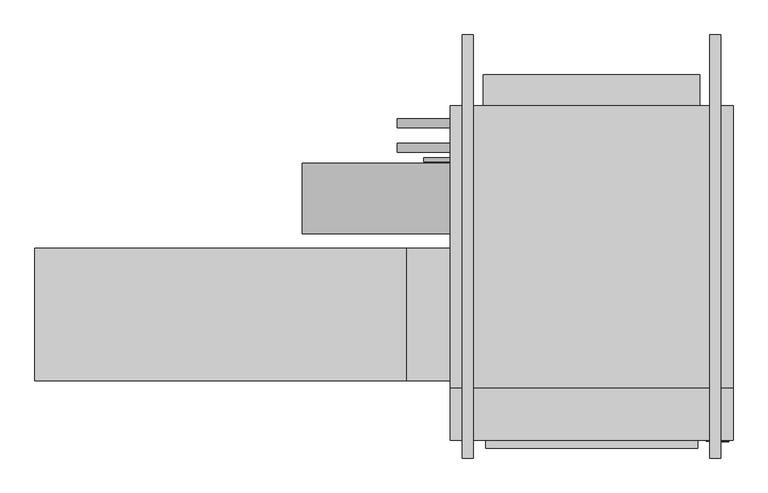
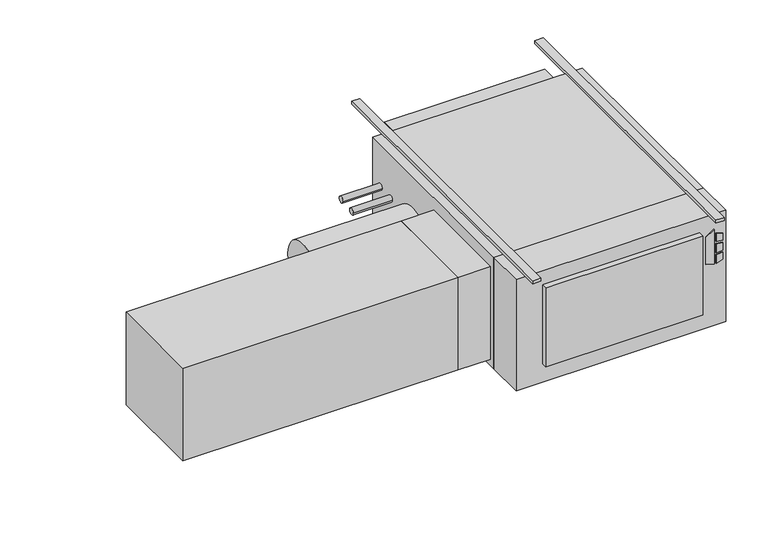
"""IFC4 building model written with IfcOpenShell, lengths in millimetres: proxy geometry."""

import ifcopenshell
import ifcopenshell.guid

model = None  # the IFC model being written
_history = None  # IfcOwnerHistory: only IFC2X3 demands one
_inside = {}  # id of a spatial element -> (the spatial element, [elements in it])
_under = {}  # id of a project, library or spatial element -> (it, [spatial elements below it])
_declared = {}  # id of a project -> (the project, [libraries it declares])
_typed = {}  # id of a type object -> (the type object, [elements of that type])
_made_of = {}  # id of a material, layer set ... -> (it, [elements and type objects made of it])


def new_model(schema):
    """Start an empty IFC model of exactly this schema.

    Asked for "IFC4X3", IfcOpenShell would pick the latest addendum, in which some entities
    have other attributes; the version numbers below select the first issue.
    IFC2X3 requires an IfcOwnerHistory on every rooted entity: one is made here for all.
    """
    global model, _history
    if schema == "IFC4X3":
        model = ifcopenshell.file(schema_version=(4, 3, 0, 0))
    else:
        model = ifcopenshell.file(schema=schema)
    _inside.clear()
    _under.clear()
    _declared.clear()
    _typed.clear()
    _made_of.clear()
    _history = None
    if model.schema == "IFC2X3":
        org = make("IfcOrganization", Name="unknown")
        user = make(
            "IfcPersonAndOrganization",
            ThePerson=make("IfcPerson", FamilyName="unknown"),
            TheOrganization=org,
        )
        app = make(
            "IfcApplication",
            ApplicationDeveloper=org,
            Version="unknown",
            ApplicationFullName="unknown",
            ApplicationIdentifier="unknown",
        )
        _history = make(
            "IfcOwnerHistory",
            OwningUser=user,
            OwningApplication=app,
            ChangeAction="ADDED",
            CreationDate=0,
        )
    return model


def make(cls, **values):
    """One entity of the class cls with the attributes given. An attribute that is None is left unset."""
    return model.create_entity(
        cls, **{name: value for name, value in values.items() if value is not None}
    )


def rooted(cls, **values):
    """An entity with a GlobalId (a new one), such as an element, a storey or a relation."""
    return make(cls, GlobalId=ifcopenshell.guid.new(), OwnerHistory=_history, **values)


def si_unit(unit_type, name, prefix=None):
    """IfcSIUnit, for example si_unit("LENGTHUNIT", "METRE", prefix="MILLI")."""
    return make("IfcSIUnit", UnitType=unit_type, Prefix=prefix, Name=name)


def assignment(units):
    """IfcUnitAssignment: the units of a project."""
    return None if units is None else make("IfcUnitAssignment", Units=units)


def point(xyz):
    """IfcCartesianPoint."""
    return None if xyz is None else make("IfcCartesianPoint", Coordinates=xyz)


def direction(xyz):
    """IfcDirection."""
    return None if xyz is None else make("IfcDirection", DirectionRatios=xyz)


def frame(location, z_axis=None, x_axis=None):
    """IfcAxis2Placement3D, a coordinate frame: its origin and axes. An axis left out is left unset."""
    return make(
        "IfcAxis2Placement3D",
        Location=point(location),
        Axis=direction(z_axis),
        RefDirection=direction(x_axis),
    )


def frame_2d(location, x_axis=None):
    """IfcAxis2Placement2D, a coordinate frame in the plane: its origin and x axis."""
    return make(
        "IfcAxis2Placement2D", Location=point(location), RefDirection=direction(x_axis)
    )


def origin():
    """The frame at (0, 0, 0) with its axes left unset."""
    return frame((0.0, 0.0, 0.0))


def origin_with_axes():
    """The frame at (0, 0, 0) with the z axis (0, 0, 1) and the x axis (1, 0, 0) written out."""
    return frame((0.0, 0.0, 0.0), z_axis=(0.0, 0.0, 1.0), x_axis=(1.0, 0.0, 0.0))


def place(relative_to, where):
    """IfcLocalPlacement: puts the frame where relative to a parent placement (None: the world)."""
    return make(
        "IfcLocalPlacement", PlacementRelTo=relative_to, RelativePlacement=where
    )


def context(
    kind, dimensions, precision=None, world=None, true_north=None, identifier=None
):
    """IfcGeometricRepresentationContext, for example the 3D "Model" context."""
    return make(
        "IfcGeometricRepresentationContext",
        ContextIdentifier=identifier,
        ContextType=kind,
        CoordinateSpaceDimension=dimensions,
        Precision=precision,
        WorldCoordinateSystem=world,
        TrueNorth=true_north,
    )


def project(units=None, contexts=None):
    """IfcProject with its units and contexts."""
    return rooted(
        "IfcProject",
        Name="project",
        RepresentationContexts=contexts,
        UnitsInContext=assignment(units),
    )


def spatial(cls, under=None, at=None, **own):
    """A site, building, storey or space (cls), placed at a placement, below another one or the project."""
    s = rooted(cls, ObjectPlacement=at, **own)
    if under is not None:
        _under.setdefault(under.id(), (under, []))[1].append(s)
    return s


def polyline(points):
    """IfcPolyline through the points."""
    return make("IfcPolyline", Points=[point(p) for p in points])


def circle_curve(where, radius):
    """IfcCircle in the frame where."""
    return make("IfcCircle", Position=where, Radius=radius)


def trimmed(basis, trim1, trim2, sense, master):
    """IfcTrimmedCurve: the piece of a basis curve between two trims."""
    return make(
        "IfcTrimmedCurve",
        BasisCurve=basis,
        Trim1=trim1,
        Trim2=trim2,
        SenseAgreement=sense,
        MasterRepresentation=master,
    )


def segment(curve, same_sense, transition):
    """IfcCompositeCurveSegment."""
    return make(
        "IfcCompositeCurveSegment",
        Transition=transition,
        SameSense=same_sense,
        ParentCurve=curve,
    )


def composite_curve(segments, self_intersect=None):
    """IfcCompositeCurve: segments joined end to end."""
    return make("IfcCompositeCurve", Segments=segments, SelfIntersect=self_intersect)


def outline(outer, holes=None, kind="AREA"):
    """IfcArbitraryClosedProfileDef: a profile drawn as a closed curve; with holes, ...WithVoids."""
    if holes is None:
        return make("IfcArbitraryClosedProfileDef", ProfileType=kind, OuterCurve=outer)
    return make(
        "IfcArbitraryProfileDefWithVoids",
        ProfileType=kind,
        OuterCurve=outer,
        InnerCurves=holes,
    )


def extrude(swept, where, along, depth):
    """IfcExtrudedAreaSolid: the profile swept, set in the frame where, extruded along a direction by depth."""
    return make(
        "IfcExtrudedAreaSolid",
        SweptArea=swept,
        Position=where,
        ExtrudedDirection=direction(along),
        Depth=depth,
    )


def shape(context_of_items, identifier, shape_type, items):
    """IfcShapeRepresentation: the items that make up one representation, for example the "Body"."""
    return make(
        "IfcShapeRepresentation",
        ContextOfItems=context_of_items,
        RepresentationIdentifier=identifier,
        RepresentationType=shape_type,
        Items=items,
    )


def source(mapping_origin, context_of_items, identifier, shape_type, items):
    """IfcRepresentationMap: a shape defined once, which mapped items show again and again."""
    return make(
        "IfcRepresentationMap",
        MappingOrigin=mapping_origin,
        MappedRepresentation=shape(context_of_items, identifier, shape_type, items),
    )


def transform(
    local_origin,
    x_axis=None,
    y_axis=None,
    z_axis=None,
    scale=None,
    scale2=None,
    scale3=None,
    uniform=True,
):
    """IfcCartesianTransformationOperator3D, or its non-uniform kind. x_axis, y_axis, z_axis: its Axis1, 2, 3."""
    if uniform:
        return make(
            "IfcCartesianTransformationOperator3D",
            Axis1=direction(x_axis),
            Axis2=direction(y_axis),
            LocalOrigin=point(local_origin),
            Scale=scale,
            Axis3=direction(z_axis),
        )
    return make(
        "IfcCartesianTransformationOperator3DnonUniform",
        Axis1=direction(x_axis),
        Axis2=direction(y_axis),
        LocalOrigin=point(local_origin),
        Scale=scale,
        Axis3=direction(z_axis),
        Scale2=scale2,
        Scale3=scale3,
    )


def mapped(mapping_source, mapping_target):
    """IfcMappedItem: shows the shape of a source again, moved by a transform."""
    return make(
        "IfcMappedItem", MappingSource=mapping_source, MappingTarget=mapping_target
    )


def made_of(thing, what):
    """Note that an element or type object is made of a material, layer set ...; save() writes the relation."""
    if what is not None:
        _made_of.setdefault(what.id(), (what, []))[1].append(thing)
    return thing


def element(
    cls,
    number,
    at=None,
    inside=None,
    cuts=None,
    type_object=None,
    material=None,
    context=None,
    identifier="Body",
    shape_type=None,
    held_by="IfcProductDefinitionShape",
    body=None,
    shapes=None,
    **own,
):
    """One element of the class cls, such as IfcWall. Its Tag is "e" and its number.

    at: its placement. inside: the storey or other place that contains it. cuts: it is an
    opening in that element (IfcRelVoidsElement). A single representation is given by context,
    identifier, shape_type and body (its items); several are given by shapes. held_by: the class
    of the entity that holds the representations. save() writes the other relations.
    """
    e = rooted(cls, Tag="e%d" % number, ObjectPlacement=at, **own)
    if body is not None:
        shapes = [shape(context, identifier, shape_type, body)]
    if shapes is not None:
        e.Representation = make(held_by, Representations=shapes)
    if inside is not None:
        _inside.setdefault(inside.id(), (inside, []))[1].append(e)
    if cuts is not None:
        rooted(
            "IfcRelVoidsElement", RelatingBuildingElement=cuts, RelatedOpeningElement=e
        )
    if type_object is not None:
        _typed.setdefault(type_object.id(), (type_object, []))[1].append(e)
    return made_of(e, material)


def aggregate(whole, parts):
    """IfcRelAggregates: a whole, such as a stair, and the parts it consists of."""
    return rooted("IfcRelAggregates", RelatingObject=whole, RelatedObjects=parts)


def save(model, path):
    """Write the relations noted so far, then the file.

    IfcRelAggregates (storeys below a building ...), IfcRelContainedInSpatialStructure (elements
    in a storey), IfcRelDefinesByType, IfcRelAssociatesMaterial and IfcRelDeclares: one each for
    every whole, place, type object, material and project.
    """
    for whole, parts in _under.values():
        aggregate(whole, parts)
    for where, things in _inside.values():
        rooted(
            "IfcRelContainedInSpatialStructure",
            RelatedElements=things,
            RelatingStructure=where,
        )
    for kind, things in _typed.values():
        rooted("IfcRelDefinesByType", RelatedObjects=things, RelatingType=kind)
    for what, things in _made_of.values():
        rooted("IfcRelAssociatesMaterial", RelatedObjects=things, RelatingMaterial=what)
    for by, libraries in _declared.values():
        rooted("IfcRelDeclares", RelatingContext=by, RelatedDefinitions=libraries)
    model.write(path)


def mechanical_equipment_76ebdcd2(model_context):
    return source(origin(), model_context, "Body", "SweptSolid", [
        extrude(outline(polyline([(-193.2519297, 481.0868862), (-203.2, 513.2602728), (-61.0290756, 513.2602728), (-84.0510817, 481.0868862), (-193.2519297, 481.0868862)])), frame((0.0, -797.052, 0.0), z_axis=(0.0, 1.0, 0.0), x_axis=(0.0, 0.0, 1.0)), (0.0, 0.0, 1.0), 3.175),
        extrude(outline(polyline([(-114.2526443, 520.0186058), (-117.4550368, 546.1), (-88.2261958, 546.1), (-80.1617807, 520.0186058), (-114.2526443, 520.0186058)])), frame((0.0, -797.052, 0.0), z_axis=(0.0, 1.0, 0.0), x_axis=(0.0, 0.0, 1.0)), (0.0, 0.0, 1.0), 3.175),
        extrude(outline(polyline([(-166.1161712, 546.1), (-169.7816721, 520.0186058), (-203.2, 520.0186058), (-194.5657628, 546.1), (-166.1161712, 546.1)])), frame((0.0, -797.052, 0.0), z_axis=(0.0, 1.0, 0.0), x_axis=(0.0, 0.0, 1.0)), (0.0, 0.0, 1.0), 3.175),
        extrude(outline(polyline([(-126.8010097, 546.1), (-124.5191834, 520.0186058), (-160.4567319, 520.0186058), (-157.7154669, 546.1), (-126.8010097, 546.1)])), frame((0.0, -797.052, 0.0), z_axis=(0.0, 1.0, 0.0), x_axis=(0.0, 0.0, 1.0)), (0.0, 0.0, 1.0), 3.175),
        extrude(outline(polyline([(558.8, -793.877), (-254.0, -793.877), (-254.0, -644.525), (558.8, -644.525), (558.8, -793.877)])), frame((0.0, 0.0, -457.2), z_axis=(0.0, 0.0, 1.0), x_axis=(1.0, 0.0, 0.0)), (0.0, 0.0, 1.0), 457.2),
        extrude(outline(polyline([(457.2, -816.229), (-152.4, -816.229), (-152.4, -793.877), (457.2, -793.877), (457.2, -816.229)])), frame((0.0, 0.0, -381.0), z_axis=(0.0, 0.0, 1.0), x_axis=(1.0, 0.0, 0.0)), (0.0, 0.0, 1.0), 323.85),
        extrude(outline(polyline([(-1447.8, -622.3), (-1447.8, -241.3), (-381.0, -241.3), (-381.0, -622.3), (-1447.8, -622.3)])), frame((0.0, 0.0, -431.8), z_axis=(0.0, 0.0, 1.0), x_axis=(1.0, 0.0, 0.0)), (0.0, 0.0, 1.0), 381.0),
        extrude(outline(polyline([(-254.0, -241.3), (-254.0, -622.3), (-381.0, -622.3), (-381.0, -241.3), (-254.0, -241.3)])), frame((0.0, 0.0, -431.8), z_axis=(0.0, 0.0, 1.0), x_axis=(1.0, 0.0, 0.0)), (0.0, 0.0, 1.0), 381.0),
        extrude(outline(composite_curve([segment(trimmed(circle_curve(frame_2d((-98.4896516, -228.6360165)), 101.6), [point((-200.0896516, -228.6360165))], [point((3.1103484, -228.6360165))], False, "CARTESIAN"), True, "CONTINUOUS"), segment(trimmed(circle_curve(frame_2d((-98.4896516, -228.6360165)), 101.6), [point((3.1103484, -228.6360165))], [point((-200.0896516, -228.6360165))], False, "CARTESIAN"), True, "CONTINUOUS")], self_intersect=False)), frame((-679.45, 0.0, 0.0), z_axis=(1.0, 0.0, 0.0), x_axis=(0.0, 1.0, 0.0)), (0.0, 0.0, 1.0), 425.45),
        extrude(outline(composite_curve([segment(trimmed(circle_curve(frame_2d((47.625, -177.8)), 12.7), [point((34.925, -177.8))], [point((60.325, -177.8))], False, "CARTESIAN"), True, "CONTINUOUS"), segment(trimmed(circle_curve(frame_2d((47.625, -177.8)), 12.7), [point((60.325, -177.8))], [point((34.925, -177.8))], False, "CARTESIAN"), True, "CONTINUOUS")], self_intersect=False)), frame((-406.4, 0.0, 0.0), z_axis=(1.0, 0.0, 0.0), x_axis=(0.0, 1.0, 0.0)), (0.0, 0.0, 1.0), 152.4),
        extrude(outline(composite_curve([segment(trimmed(circle_curve(frame_2d((117.475, -171.45)), 12.7), [point((104.775, -171.45))], [point((130.175, -171.45))], False, "CARTESIAN"), True, "CONTINUOUS"), segment(trimmed(circle_curve(frame_2d((117.475, -171.45)), 12.7), [point((130.175, -171.45))], [point((104.775, -171.45))], False, "CARTESIAN"), True, "CONTINUOUS")], self_intersect=False)), frame((-406.4, 0.0, 0.0), z_axis=(1.0, 0.0, 0.0), x_axis=(0.0, 1.0, 0.0)), (0.0, 0.0, 1.0), 152.4),
        extrude(outline(composite_curve([segment(trimmed(circle_curve(frame_2d((12.7, -409.575)), 6.35), [point((6.35, -409.575))], [point((19.05, -409.575))], False, "CARTESIAN"), True, "CONTINUOUS"), segment(trimmed(circle_curve(frame_2d((12.7, -409.575)), 6.35), [point((19.05, -409.575))], [point((6.35, -409.575))], False, "CARTESIAN"), True, "CONTINUOUS")], self_intersect=False)), frame((-330.2, 0.0, 0.0), z_axis=(1.0, 0.0, 0.0), x_axis=(0.0, 1.0, 0.0)), (0.0, 0.0, 1.0), 76.2),
        extrude(outline(polyline([(558.8, 168.275), (558.8, -644.525), (-254.0, -644.525), (-254.0, 168.275), (558.8, 168.275)])), frame((0.0, 0.0, -457.2), z_axis=(0.0, 0.0, 1.0), x_axis=(1.0, 0.0, 0.0)), (0.0, 0.0, 1.0), 457.2),
        extrude(outline(polyline([(-158.75, 257.175), (463.55, 257.175), (463.55, 168.275), (-158.75, 168.275), (-158.75, 257.175)])), frame((0.0, 0.0, -381.0), z_axis=(0.0, 0.0, 1.0), x_axis=(1.0, 0.0, 0.0)), (0.0, 0.0, 1.0), 355.6),
        extrude(outline(polyline([(-187.325, 371.475), (-187.325, -844.677), (-219.075, -844.677), (-219.075, 371.475), (-187.325, 371.475)])), origin_with_axes(), (0.0, 0.0, 1.0), 12.7),
        extrude(outline(polyline([(523.875, 371.475), (523.875, -844.677), (492.125, -844.677), (492.125, 371.475), (523.875, 371.475)])), origin_with_axes(), (0.0, 0.0, 1.0), 12.7),
    ])


if __name__ == "__main__":
    model = new_model("IFC4")
    model_context = context("Model", 3, world=origin())
    ifc_project = project(units=[si_unit("LENGTHUNIT", "METRE", prefix="MILLI")], contexts=[model_context])
    site = spatial("IfcSite", under=ifc_project)
    building = spatial("IfcBuilding", under=site)
    placement = place(None, origin())
    mechanical_equipment_shape = mechanical_equipment_76ebdcd2(model_context)
    element("IfcBuildingElementProxy", 1, Name="High_Capacity_Horizontal_Cabinet_Fan_Coil_Unit_-_HTY_-_IEC_-_2 Pipe, Elec Heat_WO-Attenuator_LH Side_2022 : Size 10 - 277v/60Hz/1Ph - 8/0 Coil 7.0kW - 8\" AirIn", ObjectType="High_Capacity_Horizontal_Cabinet_Fan_Coil_Unit_-_HTY_-_IEC_-_2 Pipe, Elec Heat_WO-Attenuator_LH Side_2022 : Size 10 - 277v/60Hz/1Ph - 8/0 Coil 7.0kW - 8\" AirIn", at=placement, inside=building, context=model_context, shape_type="MappedRepresentation", body=[
        mapped(mechanical_equipment_shape, transform((0.0, 0.0, 0.0), x_axis=(1.0, 0.0, 0.0), y_axis=(0.0, 1.0, 0.0), z_axis=(0.0, 0.0, 1.0))),
    ])
    save(model, "model.ifc")
